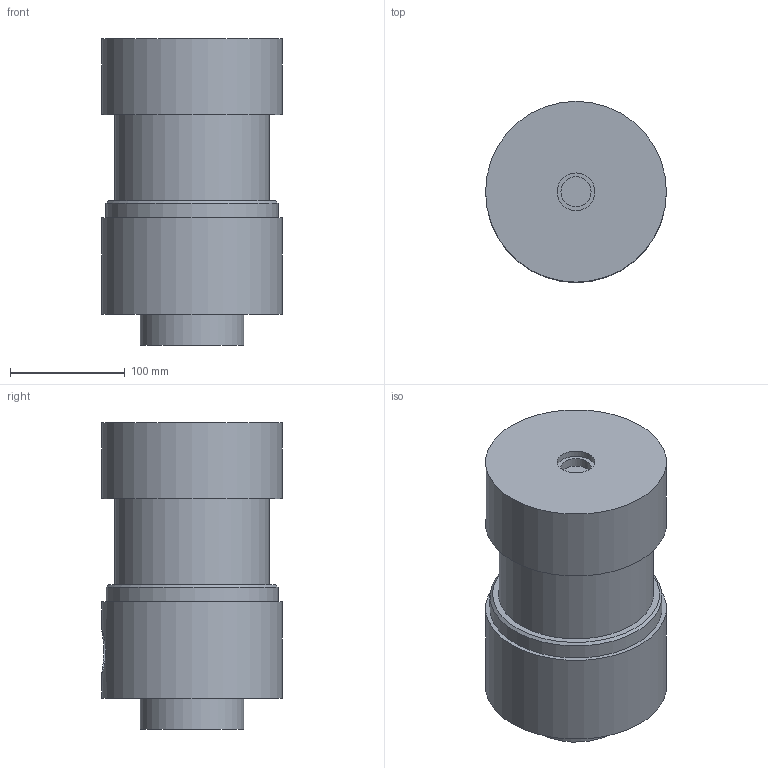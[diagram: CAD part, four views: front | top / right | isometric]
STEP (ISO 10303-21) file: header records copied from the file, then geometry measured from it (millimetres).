
FILE_DESCRIPTION(/* description */ (''),/* implementation_level */ '2;1');
FILE_NAME(/* name */ 'Aluminium Punch Cylinder 1.stp',/* time_stamp */ '2026-03-16T08:58:04-03:00',/* author */ ('cpEwe'),/* organization */ (''),/* preprocessor_version */ 'ST-DEVELOPER v20.1',/* originating_system */ 'Autodesk Inventor 2026',/* authorisation */ '');
FILE_SCHEMA (('AUTOMOTIVE_DESIGN { 1 0 10303 214 3 1 1 }'));
Length unit declared in the file: inch
Products named in the file (1): Aluminium Punch Cylinder 1
Bounding box: 157.5 x 157.5 x 267 mm (x, y, z)
Volume: 2625278.2 mm3; surface area: 278801.4 mm2
Topology: 1 solids, 1 shells, 38 faces, 65 edges, 44 vertices
Faces by surface type: plane 20, cylinder 17, cone 1
Full cylindrical faces by diameter (mm): 15 x6, 18.75 x1, 26.25 x1, 32.839 x1, 40.335 x1, 65.76 x1, 90 x1, 120 x1, 135 x1, 157.5 x2
Entity records: 1055 total; most frequent: CARTESIAN_POINT 254, DIRECTION 170, ORIENTED_EDGE 130, AXIS2_PLACEMENT_3D 72, EDGE_CURVE 65, EDGE_LOOP 55, VERTEX_POINT 44, FACE_OUTER_BOUND 38
